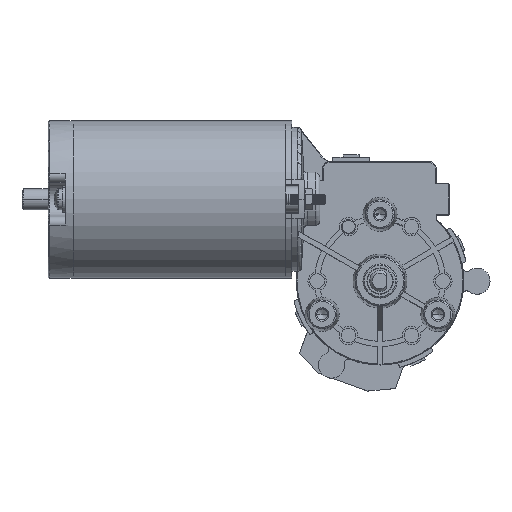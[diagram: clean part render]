
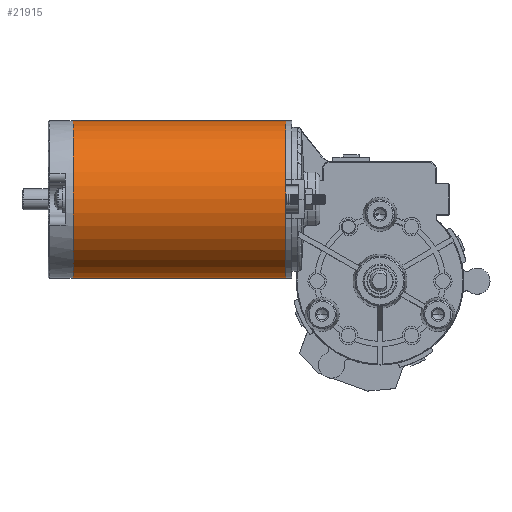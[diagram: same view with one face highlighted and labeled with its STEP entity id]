
A CAD part, top view. The second image highlights one B-rep face of the part: STEP entity #21915.
In plain terms, the highlighted cylindrical face has radius 30 mm (diameter 60 mm), a partial arc.
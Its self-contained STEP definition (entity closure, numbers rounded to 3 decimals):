
#820 = CYLINDRICAL_SURFACE ( 'NONE', #22705, 30. ) ;
#1197 = CARTESIAN_POINT ( 'NONE',  ( 247.566, -13.057, 0. ) ) ;
#2364 = AXIS2_PLACEMENT_3D ( 'NONE', #33862, #15248, #37002 ) ;
#4335 = DIRECTION ( 'NONE',  ( 1., 0., 0. ) ) ;
#5377 = CARTESIAN_POINT ( 'NONE',  ( 166.366, -43.057, 0. ) ) ;
#6717 = ORIENTED_EDGE ( 'NONE', *, *, #15965, .F. ) ;
#6899 = VERTEX_POINT ( 'NONE', #21769 ) ;
#7281 = DIRECTION ( 'NONE',  ( 0., 1., 0. ) ) ;
#8519 = DIRECTION ( 'NONE',  ( 0., 1., 0. ) ) ;
#9046 = VERTEX_POINT ( 'NONE', #24681 ) ;
#9394 = EDGE_LOOP ( 'NONE', ( #19447, #36152, #25678, #6717 ) ) ;
#10287 = DIRECTION ( 'NONE',  ( 1., 0., 0. ) ) ;
#11453 = CIRCLE ( 'NONE', #13082, 30. ) ;
#11791 = VERTEX_POINT ( 'NONE', #33094 ) ;
#11848 = VERTEX_POINT ( 'NONE', #24132 ) ;
#12146 = CIRCLE ( 'NONE', #2364, 30. ) ;
#13082 = AXIS2_PLACEMENT_3D ( 'NONE', #5377, #27216, #8519 ) ;
#15248 = DIRECTION ( 'NONE',  ( 1., 0., 0. ) ) ;
#15624 = DIRECTION ( 'NONE',  ( 1., 0., 0. ) ) ;
#15965 = EDGE_CURVE ( 'NONE', #9046, #11848, #12146, .T. ) ;
#19447 = ORIENTED_EDGE ( 'NONE', *, *, #33112, .F. ) ;
#21769 = CARTESIAN_POINT ( 'NONE',  ( 166.366, -73.057, 0. ) ) ;
#21915 = ADVANCED_FACE ( 'NONE', ( #29645 ), #820, .T. ) ;
#22705 = AXIS2_PLACEMENT_3D ( 'NONE', #25857, #10287, #7281 ) ;
#24132 = CARTESIAN_POINT ( 'NONE',  ( 247.566, -13.057, 0. ) ) ;
#24501 = LINE ( 'NONE', #31140, #31784 ) ;
#24681 = CARTESIAN_POINT ( 'NONE',  ( 247.566, -73.057, 0. ) ) ;
#25678 = ORIENTED_EDGE ( 'NONE', *, *, #37152, .T. ) ;
#25857 = CARTESIAN_POINT ( 'NONE',  ( 247.566, -43.057, 0. ) ) ;
#26156 = VECTOR ( 'NONE', #4335, 1000. ) ;
#27216 = DIRECTION ( 'NONE',  ( 1., 0., 0. ) ) ;
#29645 = FACE_OUTER_BOUND ( 'NONE', #9394, .T. ) ;
#31140 = CARTESIAN_POINT ( 'NONE',  ( 247.566, -73.057, 0. ) ) ;
#31418 = EDGE_CURVE ( 'NONE', #6899, #11791, #11453, .T. ) ;
#31784 = VECTOR ( 'NONE', #15624, 1000. ) ;
#33094 = CARTESIAN_POINT ( 'NONE',  ( 166.366, -13.057, 0. ) ) ;
#33112 = EDGE_CURVE ( 'NONE', #6899, #9046, #24501, .T. ) ;
#33439 = LINE ( 'NONE', #1197, #26156 ) ;
#33862 = CARTESIAN_POINT ( 'NONE',  ( 247.566, -43.057, 0. ) ) ;
#36152 = ORIENTED_EDGE ( 'NONE', *, *, #31418, .T. ) ;
#37002 = DIRECTION ( 'NONE',  ( 0., 1., 0. ) ) ;
#37152 = EDGE_CURVE ( 'NONE', #11791, #11848, #33439, .T. ) ;
